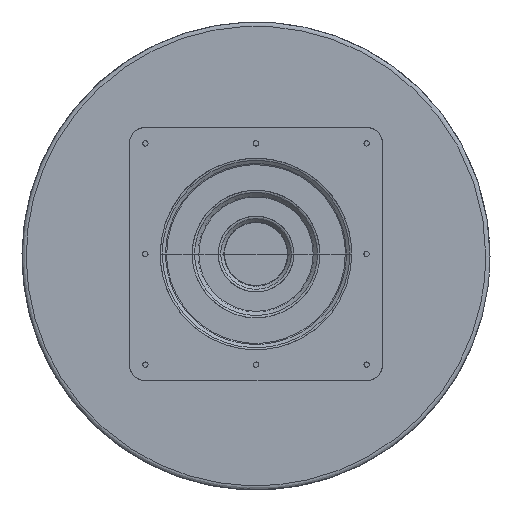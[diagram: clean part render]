
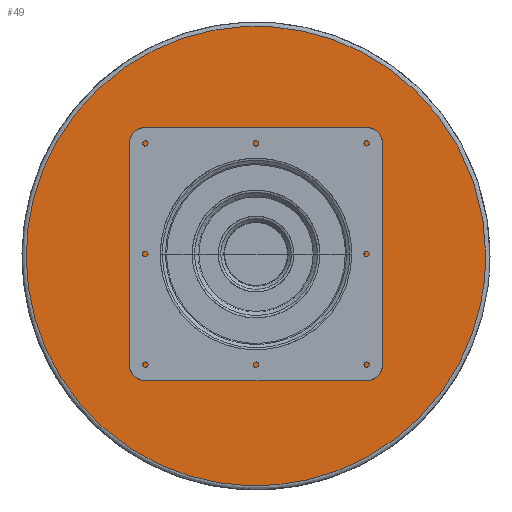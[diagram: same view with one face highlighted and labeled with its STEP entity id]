
A CAD part, top view. The second image highlights one B-rep face of the part: STEP entity #49.
In plain terms, the highlighted planar face has unit normal (0, 0, 1).
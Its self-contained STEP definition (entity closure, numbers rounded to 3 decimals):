
#24=FACE_BOUND('',#256,.T.);
#49=ADVANCED_FACE('',(#152,#24),#1443,.T.);
#152=FACE_OUTER_BOUND('',#255,.T.);
#255=EDGE_LOOP('',(#385));
#256=EDGE_LOOP('',(#386));
#385=ORIENTED_EDGE('',*,*,#972,.T.);
#386=ORIENTED_EDGE('',*,*,#843,.T.);
#843=EDGE_CURVE('',#1305,#1305,#1119,.T.);
#972=EDGE_CURVE('',#1307,#1307,#1238,.T.);
#1119=(
BOUNDED_CURVE()
B_SPLINE_CURVE(2,(#4573,#4574,#4575,#4576,#4577,#4578,#4579,#4580,#4581),
 .UNSPECIFIED.,.T.,.F.)
B_SPLINE_CURVE_WITH_KNOTS((3,2,2,2,3),(-170.8,-128.1,-85.4,-42.7,
0.),.UNSPECIFIED.)
CURVE()
GEOMETRIC_REPRESENTATION_ITEM()
RATIONAL_B_SPLINE_CURVE((1.,0.707,1.,0.707,1.,0.707,
1.,0.707,1.))
REPRESENTATION_ITEM('')
);
#1238=(
BOUNDED_CURVE()
B_SPLINE_CURVE(2,(#4962,#4963,#4964,#4965,#4966,#4967,#4968,#4969,#4970),
 .UNSPECIFIED.,.T.,.F.)
B_SPLINE_CURVE_WITH_KNOTS((3,2,2,2,3),(-1728.,-1296.,-864.,-432.,0.),
 .UNSPECIFIED.)
CURVE()
GEOMETRIC_REPRESENTATION_ITEM()
RATIONAL_B_SPLINE_CURVE((1.,0.707,1.,0.707,1.,0.707,
1.,0.707,1.))
REPRESENTATION_ITEM('')
);
#1305=VERTEX_POINT('',#4435);
#1307=VERTEX_POINT('',#4437);
#1443=PLANE('',#1566);
#1566=AXIS2_PLACEMENT_3D('',#1650,#1599,$);
#1599=DIRECTION('',(0.,0.,1.));
#1650=CARTESIAN_POINT('',(-259.212,-259.212,11.));
#4435=CARTESIAN_POINT('',(30.,0.,11.));
#4437=CARTESIAN_POINT('',(216.,0.,11.));
#4573=CARTESIAN_POINT('',(30.,0.,11.));
#4574=CARTESIAN_POINT('',(30.,-30.,11.));
#4575=CARTESIAN_POINT('',(0.,-30.,11.));
#4576=CARTESIAN_POINT('',(-30.,-30.,11.));
#4577=CARTESIAN_POINT('',(-30.,0.,11.));
#4578=CARTESIAN_POINT('',(-30.,30.,11.));
#4579=CARTESIAN_POINT('',(0.,30.,11.));
#4580=CARTESIAN_POINT('',(30.,30.,11.));
#4581=CARTESIAN_POINT('',(30.,0.,11.));
#4962=CARTESIAN_POINT('',(216.,0.,11.));
#4963=CARTESIAN_POINT('',(216.,216.,11.));
#4964=CARTESIAN_POINT('',(0.,216.,11.));
#4965=CARTESIAN_POINT('',(-216.,216.,11.));
#4966=CARTESIAN_POINT('',(-216.,0.,11.));
#4967=CARTESIAN_POINT('',(-216.,-216.,11.));
#4968=CARTESIAN_POINT('',(0.,-216.,11.));
#4969=CARTESIAN_POINT('',(216.,-216.,11.));
#4970=CARTESIAN_POINT('',(216.,0.,11.));
